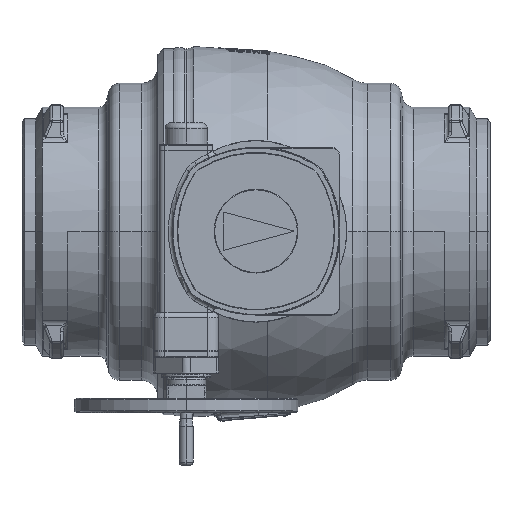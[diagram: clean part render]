
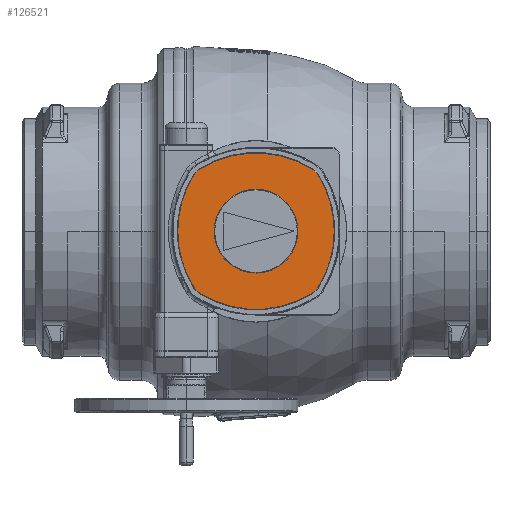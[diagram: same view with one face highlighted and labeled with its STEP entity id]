
A CAD part, top view. The second image highlights one B-rep face of the part: STEP entity #126521.
In plain terms, the highlighted planar face has unit normal (0, 0, 1).
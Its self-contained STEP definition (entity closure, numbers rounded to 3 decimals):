
#115894=CARTESIAN_POINT('',(85.34,-85.34,142.));
#115895=DIRECTION('',(0.,0.,-1.));
#115896=DIRECTION('',(0.846,-0.533,0.));
#115897=AXIS2_PLACEMENT_3D('',#115894,#115895,#115896);
#115899=CARTESIAN_POINT('',(0.,50.,142.));
#115900=DIRECTION('',(0.,0.,-1.));
#115901=DIRECTION('',(0.533,-0.846,0.));
#115902=AXIS2_PLACEMENT_3D('',#115899,#115900,#115901);
#115904=CARTESIAN_POINT('',(-85.34,-85.34,142.));
#115905=DIRECTION('',(0.,0.,-1.));
#115906=DIRECTION('',(-0.533,-0.846,0.));
#115907=AXIS2_PLACEMENT_3D('',#115904,#115905,#115906);
#115909=CARTESIAN_POINT('',(50.,0.,142.));
#115910=DIRECTION('',(0.,0.,-1.));
#115911=DIRECTION('',(-0.846,-0.533,0.));
#115912=AXIS2_PLACEMENT_3D('',#115909,#115910,#115911);
#115914=CARTESIAN_POINT('',(50.,0.,142.));
#115915=DIRECTION('',(0.,0.,-1.));
#115916=DIRECTION('',(-1.,0.,0.));
#115917=AXIS2_PLACEMENT_3D('',#115914,#115915,#115916);
#115919=CARTESIAN_POINT('',(-85.34,85.34,142.));
#115920=DIRECTION('',(0.,0.,-1.));
#115921=DIRECTION('',(-0.846,0.533,0.));
#115922=AXIS2_PLACEMENT_3D('',#115919,#115920,#115921);
#115924=CARTESIAN_POINT('',(0.,-50.,142.));
#115925=DIRECTION('',(0.,0.,-1.));
#115926=DIRECTION('',(-0.533,0.846,0.));
#115927=AXIS2_PLACEMENT_3D('',#115924,#115925,#115926);
#115929=CARTESIAN_POINT('',(85.34,85.34,142.));
#115930=DIRECTION('',(0.,0.,-1.));
#115931=DIRECTION('',(0.533,0.846,0.));
#115932=AXIS2_PLACEMENT_3D('',#115929,#115930,#115931);
#115934=CARTESIAN_POINT('',(-50.,0.,142.));
#115935=DIRECTION('',(0.,0.,-1.));
#115936=DIRECTION('',(0.846,0.533,0.));
#115937=AXIS2_PLACEMENT_3D('',#115934,#115935,#115936);
#115939=CARTESIAN_POINT('',(-50.,0.,142.));
#115940=DIRECTION('',(0.,0.,-1.));
#115941=DIRECTION('',(1.,0.,0.));
#115942=AXIS2_PLACEMENT_3D('',#115939,#115940,#115941);
#115944=CARTESIAN_POINT('',(0.,0.,142.));
#115945=DIRECTION('',(0.,0.,1.));
#115946=DIRECTION('',(-1.,0.,0.));
#115947=AXIS2_PLACEMENT_3D('',#115944,#115945,#115946);
#115949=CARTESIAN_POINT('',(0.,0.,142.));
#115950=DIRECTION('',(0.,0.,1.));
#115951=DIRECTION('',(1.,0.,0.));
#115952=AXIS2_PLACEMENT_3D('',#115949,#115950,#115951);
#116132=CARTESIAN_POINT('',(101.342,110.717,142.));
#116133=VERTEX_POINT('',#116132);
#116134=CARTESIAN_POINT('',(-101.342,110.717,142.));
#116135=VERTEX_POINT('',#116134);
#116136=CARTESIAN_POINT('',(110.717,101.342,142.));
#116137=VERTEX_POINT('',#116136);
#116138=CARTESIAN_POINT('',(110.717,-101.342,142.));
#116139=VERTEX_POINT('',#116138);
#116140=CARTESIAN_POINT('',(140.,0.,142.));
#116141=VERTEX_POINT('',#116140);
#116142=CARTESIAN_POINT('',(101.342,-110.717,142.));
#116143=VERTEX_POINT('',#116142);
#116144=CARTESIAN_POINT('',(-101.342,-110.717,142.));
#116145=VERTEX_POINT('',#116144);
#116146=CARTESIAN_POINT('',(-110.717,-101.342,142.));
#116147=VERTEX_POINT('',#116146);
#116148=CARTESIAN_POINT('',(-110.717,101.342,142.));
#116149=VERTEX_POINT('',#116148);
#116150=CARTESIAN_POINT('',(-140.,0.,142.));
#116151=VERTEX_POINT('',#116150);
#116152=CARTESIAN_POINT('',(-75.,0.,142.));
#116153=CARTESIAN_POINT('',(75.,0.,142.));
#116154=VERTEX_POINT('',#116152);
#116155=VERTEX_POINT('',#116153);
#126498=CARTESIAN_POINT('',(0.,0.,142.));
#126499=DIRECTION('',(0.,0.,1.));
#126500=DIRECTION('',(1.,0.,0.));
#126501=AXIS2_PLACEMENT_3D('',#126498,#126499,#126500);
#126502=PLANE('',#126501);
#126503=ORIENTED_EDGE('',*,*,#126434,.T.);
#126504=ORIENTED_EDGE('',*,*,#126448,.T.);
#126505=ORIENTED_EDGE('',*,*,#126462,.T.);
#126506=ORIENTED_EDGE('',*,*,#126479,.T.);
#126507=ORIENTED_EDGE('',*,*,#126477,.T.);
#126508=ORIENTED_EDGE('',*,*,#126492,.T.);
#126509=ORIENTED_EDGE('',*,*,#126388,.T.);
#126510=ORIENTED_EDGE('',*,*,#126403,.T.);
#126511=ORIENTED_EDGE('',*,*,#126420,.T.);
#126512=ORIENTED_EDGE('',*,*,#126418,.T.);
#126513=EDGE_LOOP('',(#126503,#126504,#126505,#126506,#126507,#126508,#126509,
#126510,#126511,#126512));
#126514=FACE_OUTER_BOUND('',#126513,.F.);
#126516=ORIENTED_EDGE('',*,*,#126515,.T.);
#126518=ORIENTED_EDGE('',*,*,#126517,.T.);
#126519=EDGE_LOOP('',(#126516,#126518));
#126520=FACE_BOUND('',#126519,.F.);
#126521=ADVANCED_FACE('',(#126514,#126520),#126502,.T.);
#115898=CIRCLE('',#115897,30.);
#115903=CIRCLE('',#115902,190.);
#115908=CIRCLE('',#115907,30.);
#115913=CIRCLE('',#115912,190.);
#115918=CIRCLE('',#115917,190.);
#115923=CIRCLE('',#115922,30.);
#115928=CIRCLE('',#115927,190.);
#115933=CIRCLE('',#115932,30.);
#115938=CIRCLE('',#115937,190.);
#115943=CIRCLE('',#115942,190.);
#115948=CIRCLE('',#115947,75.);
#115953=CIRCLE('',#115952,75.);
#126388=EDGE_CURVE('',#116135,#116133,#115928,.T.);
#126403=EDGE_CURVE('',#116133,#116137,#115933,.T.);
#126418=EDGE_CURVE('',#116141,#116139,#115943,.T.);
#126420=EDGE_CURVE('',#116137,#116141,#115938,.T.);
#126434=EDGE_CURVE('',#116139,#116143,#115898,.T.);
#126448=EDGE_CURVE('',#116143,#116145,#115903,.T.);
#126462=EDGE_CURVE('',#116145,#116147,#115908,.T.);
#126477=EDGE_CURVE('',#116151,#116149,#115918,.T.);
#126479=EDGE_CURVE('',#116147,#116151,#115913,.T.);
#126492=EDGE_CURVE('',#116149,#116135,#115923,.T.);
#126515=EDGE_CURVE('',#116154,#116155,#115948,.T.);
#126517=EDGE_CURVE('',#116155,#116154,#115953,.T.);
